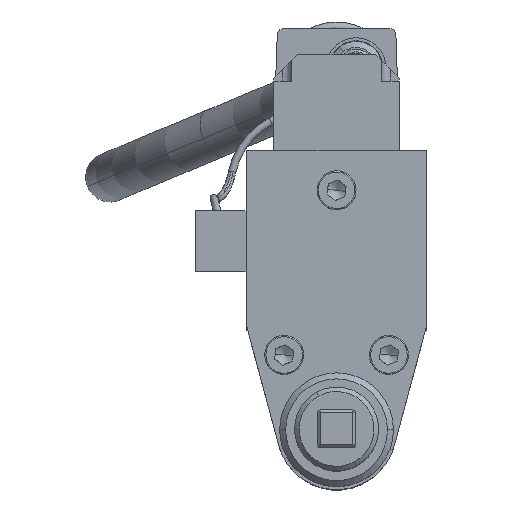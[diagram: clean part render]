
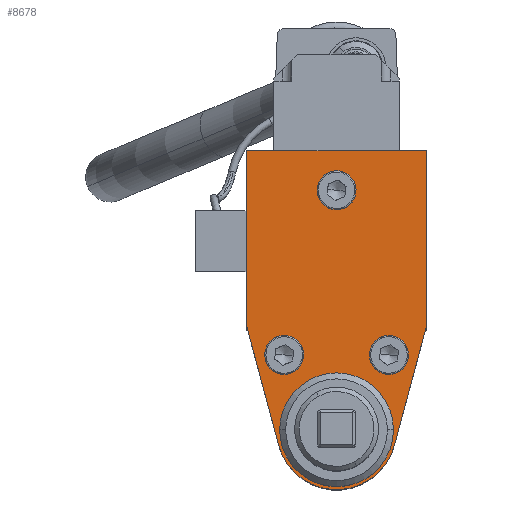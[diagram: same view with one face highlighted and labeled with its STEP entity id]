
A CAD part, top view. The second image highlights one B-rep face of the part: STEP entity #8678.
In plain terms, the highlighted planar face has unit normal (0, 0, 1).
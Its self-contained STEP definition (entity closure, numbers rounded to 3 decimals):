
#8412=CARTESIAN_POINT('Axis2P3D Location',(0.,16.77,520.1)) ;
#8416=CARTESIAN_POINT('Vertex',(-3.794,18.843,520.1)) ;
#8418=CARTESIAN_POINT('Vertex',(3.794,14.697,520.1)) ;
#8438=CARTESIAN_POINT('Axis2P3D Location',(0.,16.77,520.1)) ;
#8541=CARTESIAN_POINT('Axis2P3D Location',(17.5,-38.23,520.1)) ;
#8545=CARTESIAN_POINT('Vertex',(13.706,-36.157,520.1)) ;
#8547=CARTESIAN_POINT('Vertex',(21.294,-40.303,520.1)) ;
#8567=CARTESIAN_POINT('Axis2P3D Location',(17.5,-38.23,520.1)) ;
#8579=CARTESIAN_POINT('Axis2P3D Location',(0.,0.,520.1)) ;
#8584=CARTESIAN_POINT('Line Origine',(0.,30.,520.1)) ;
#8588=CARTESIAN_POINT('Vertex',(30.,30.,520.1)) ;
#8590=CARTESIAN_POINT('Vertex',(-30.,30.,520.1)) ;
#8593=CARTESIAN_POINT('Line Origine',(-30.,0.729,520.1)) ;
#8597=CARTESIAN_POINT('Vertex',(-30.,-28.543,520.1)) ;
#8600=CARTESIAN_POINT('Line Origine',(-24.659,-48.474,520.1)) ;
#8604=CARTESIAN_POINT('Vertex',(-19.319,-68.406,520.1)) ;
#8607=CARTESIAN_POINT('Axis2P3D Location',(0.,-63.23,520.1)) ;
#8611=CARTESIAN_POINT('Vertex',(19.319,-68.406,520.1)) ;
#8614=CARTESIAN_POINT('Line Origine',(24.659,-48.474,520.1)) ;
#8618=CARTESIAN_POINT('Vertex',(30.,-28.543,520.1)) ;
#8621=CARTESIAN_POINT('Line Origine',(30.,0.729,520.1)) ;
#8642=CARTESIAN_POINT('Axis2P3D Location',(-17.5,-38.23,520.1)) ;
#8646=CARTESIAN_POINT('Vertex',(-13.706,-40.303,520.1)) ;
#8648=CARTESIAN_POINT('Vertex',(-21.294,-36.157,520.1)) ;
#8651=CARTESIAN_POINT('Axis2P3D Location',(-17.5,-38.23,520.1)) ;
#8660=CARTESIAN_POINT('Axis2P3D Location',(0.,-63.23,520.1)) ;
#8664=CARTESIAN_POINT('Vertex',(19.,-63.23,520.1)) ;
#8666=CARTESIAN_POINT('Vertex',(-19.,-63.23,520.1)) ;
#8669=CARTESIAN_POINT('Axis2P3D Location',(0.,-63.23,520.1)) ;
#8413=DIRECTION('Axis2P3D Direction',(0.,0.,1.)) ;
#8439=DIRECTION('Axis2P3D Direction',(0.,0.,1.)) ;
#8542=DIRECTION('Axis2P3D Direction',(0.,0.,1.)) ;
#8568=DIRECTION('Axis2P3D Direction',(0.,0.,1.)) ;
#8580=DIRECTION('Axis2P3D Direction',(0.,0.,-1.)) ;
#8581=DIRECTION('Axis2P3D XDirection',(-1.,0.,0.)) ;
#8585=DIRECTION('Vector Direction',(-1.,0.,0.)) ;
#8594=DIRECTION('Vector Direction',(0.,1.,0.)) ;
#8601=DIRECTION('Vector Direction',(-0.259,0.966,0.)) ;
#8608=DIRECTION('Axis2P3D Direction',(0.,0.,-1.)) ;
#8615=DIRECTION('Vector Direction',(0.259,0.966,0.)) ;
#8622=DIRECTION('Vector Direction',(0.,-1.,0.)) ;
#8643=DIRECTION('Axis2P3D Direction',(0.,0.,-1.)) ;
#8652=DIRECTION('Axis2P3D Direction',(0.,0.,-1.)) ;
#8661=DIRECTION('Axis2P3D Direction',(0.,0.,-1.)) ;
#8670=DIRECTION('Axis2P3D Direction',(0.,0.,-1.)) ;
#8414=AXIS2_PLACEMENT_3D('Circle Axis2P3D',#8412,#8413,$) ;
#8440=AXIS2_PLACEMENT_3D('Circle Axis2P3D',#8438,#8439,$) ;
#8543=AXIS2_PLACEMENT_3D('Circle Axis2P3D',#8541,#8542,$) ;
#8569=AXIS2_PLACEMENT_3D('Circle Axis2P3D',#8567,#8568,$) ;
#8582=AXIS2_PLACEMENT_3D('Plane Axis2P3D',#8579,#8580,#8581) ;
#8609=AXIS2_PLACEMENT_3D('Circle Axis2P3D',#8607,#8608,$) ;
#8644=AXIS2_PLACEMENT_3D('Circle Axis2P3D',#8642,#8643,$) ;
#8653=AXIS2_PLACEMENT_3D('Circle Axis2P3D',#8651,#8652,$) ;
#8662=AXIS2_PLACEMENT_3D('Circle Axis2P3D',#8660,#8661,$) ;
#8671=AXIS2_PLACEMENT_3D('Circle Axis2P3D',#8669,#8670,$) ;
#8627=ORIENTED_EDGE('',*,*,#8592,.T.) ;
#8628=ORIENTED_EDGE('',*,*,#8599,.T.) ;
#8629=ORIENTED_EDGE('',*,*,#8606,.T.) ;
#8630=ORIENTED_EDGE('',*,*,#8613,.T.) ;
#8631=ORIENTED_EDGE('',*,*,#8620,.T.) ;
#8632=ORIENTED_EDGE('',*,*,#8625,.T.) ;
#8635=ORIENTED_EDGE('',*,*,#8442,.T.) ;
#8636=ORIENTED_EDGE('',*,*,#8420,.T.) ;
#8639=ORIENTED_EDGE('',*,*,#8571,.T.) ;
#8640=ORIENTED_EDGE('',*,*,#8549,.T.) ;
#8657=ORIENTED_EDGE('',*,*,#8650,.T.) ;
#8658=ORIENTED_EDGE('',*,*,#8655,.T.) ;
#8675=ORIENTED_EDGE('',*,*,#8668,.T.) ;
#8676=ORIENTED_EDGE('',*,*,#8673,.T.) ;
#8637=FACE_BOUND('',#8634,.T.) ;
#8641=FACE_BOUND('',#8638,.T.) ;
#8659=FACE_BOUND('',#8656,.T.) ;
#8677=FACE_BOUND('',#8674,.T.) ;
#8586=VECTOR('Line Direction',#8585,1.) ;
#8595=VECTOR('Line Direction',#8594,1.) ;
#8602=VECTOR('Line Direction',#8601,1.) ;
#8616=VECTOR('Line Direction',#8615,1.) ;
#8623=VECTOR('Line Direction',#8622,1.) ;
#8678=ADVANCED_FACE('',(#8633,#8637,#8641,#8659,#8677),#8583,.F.) ;
#8415=CIRCLE('generated circle',#8414,4.324) ;
#8441=CIRCLE('generated circle',#8440,4.324) ;
#8544=CIRCLE('generated circle',#8543,4.324) ;
#8570=CIRCLE('generated circle',#8569,4.324) ;
#8610=CIRCLE('generated circle',#8609,20.) ;
#8645=CIRCLE('generated circle',#8644,4.324) ;
#8654=CIRCLE('generated circle',#8653,4.324) ;
#8663=CIRCLE('generated circle',#8662,19.) ;
#8672=CIRCLE('generated circle',#8671,19.) ;
#8420=EDGE_CURVE('',#8417,#8419,#8415,.F.) ;
#8442=EDGE_CURVE('',#8419,#8417,#8441,.F.) ;
#8549=EDGE_CURVE('',#8546,#8548,#8544,.F.) ;
#8571=EDGE_CURVE('',#8548,#8546,#8570,.F.) ;
#8592=EDGE_CURVE('',#8589,#8591,#8587,.T.) ;
#8599=EDGE_CURVE('',#8591,#8598,#8596,.F.) ;
#8606=EDGE_CURVE('',#8598,#8605,#8603,.F.) ;
#8613=EDGE_CURVE('',#8605,#8612,#8610,.F.) ;
#8620=EDGE_CURVE('',#8612,#8619,#8617,.T.) ;
#8625=EDGE_CURVE('',#8619,#8589,#8624,.F.) ;
#8650=EDGE_CURVE('',#8647,#8649,#8645,.T.) ;
#8655=EDGE_CURVE('',#8649,#8647,#8654,.T.) ;
#8668=EDGE_CURVE('',#8665,#8667,#8663,.T.) ;
#8673=EDGE_CURVE('',#8667,#8665,#8672,.T.) ;
#8626=EDGE_LOOP('',(#8627,#8628,#8629,#8630,#8631,#8632)) ;
#8634=EDGE_LOOP('',(#8635,#8636)) ;
#8638=EDGE_LOOP('',(#8639,#8640)) ;
#8656=EDGE_LOOP('',(#8657,#8658)) ;
#8674=EDGE_LOOP('',(#8675,#8676)) ;
#8633=FACE_OUTER_BOUND('',#8626,.T.) ;
#8587=LINE('Line',#8584,#8586) ;
#8596=LINE('Line',#8593,#8595) ;
#8603=LINE('Line',#8600,#8602) ;
#8617=LINE('Line',#8614,#8616) ;
#8624=LINE('Line',#8621,#8623) ;
#8583=PLANE('Plane',#8582) ;
#8417=VERTEX_POINT('',#8416) ;
#8419=VERTEX_POINT('',#8418) ;
#8546=VERTEX_POINT('',#8545) ;
#8548=VERTEX_POINT('',#8547) ;
#8589=VERTEX_POINT('',#8588) ;
#8591=VERTEX_POINT('',#8590) ;
#8598=VERTEX_POINT('',#8597) ;
#8605=VERTEX_POINT('',#8604) ;
#8612=VERTEX_POINT('',#8611) ;
#8619=VERTEX_POINT('',#8618) ;
#8647=VERTEX_POINT('',#8646) ;
#8649=VERTEX_POINT('',#8648) ;
#8665=VERTEX_POINT('',#8664) ;
#8667=VERTEX_POINT('',#8666) ;
